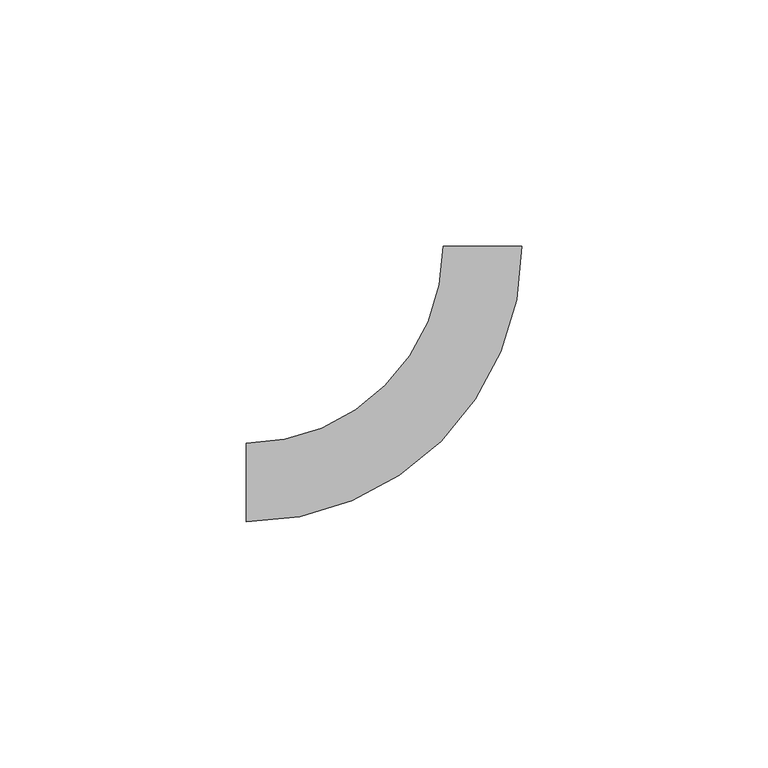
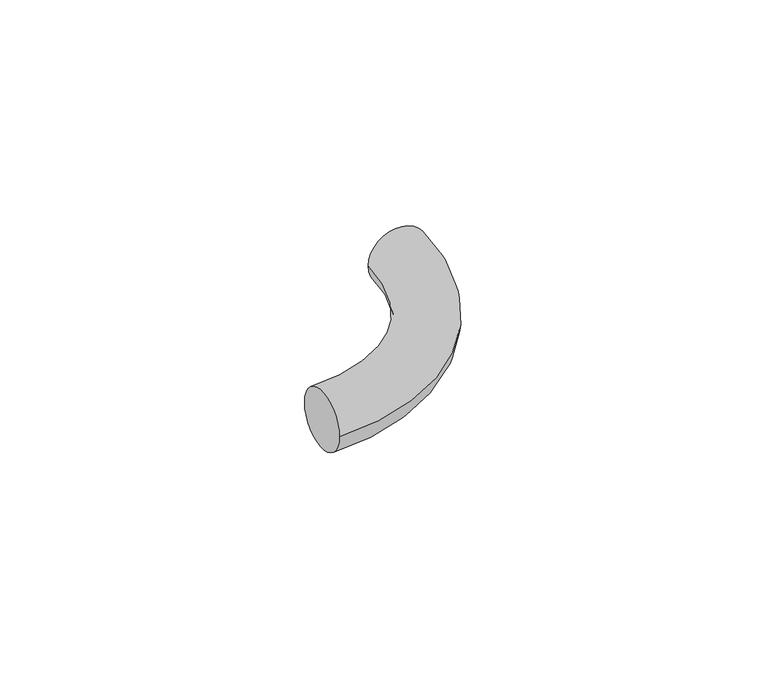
"""IFC4 building model written with IfcOpenShell, lengths in millimetres: pipe fitting geometry, ADSK_Пресс-фитинг ПЭ_Поворот с фиксатором : Поворот трубы."""

from ifc_helpers import new_model, si_unit, point, frame, origin, place, context, project, spatial, circle_curve, ellipse_curve, trimmed, source, transform, mapped, element, save
from ifc_brep_helpers import plane_surface, revolved_surface, advanced_brep


def pipe_fitting_8f811e63(model_context):
    return source(origin(), model_context, "Body", "AdvancedBrep", [
        advanced_brep(
        [(-48.0, -8.0, 0.0), (-48.0, 8.0, 0.0), (8.0, 48.0, 0.0), (-8.0, 48.0, 0.0)],
        [
            (0, 1, circle_curve(frame((-48.0, 0.0, 0.0), z_axis=(-1.0, 0.0, 0.0), x_axis=(0.0, 1.0, 0.0)), 8.0)),
            (1, 0, circle_curve(frame((-48.0, 0.0, 0.0), z_axis=(-1.0, 0.0, 0.0), x_axis=(0.0, 1.0, 0.0)), 8.0)),
            (2, 3, circle_curve(frame((0.0, 48.0, 0.0), z_axis=(0.0, 1.0, 0.0), x_axis=(-1.0, 0.0, 0.0)), 8.0)),
            (3, 2, circle_curve(frame((0.0, 48.0, 0.0), z_axis=(0.0, 1.0, 0.0), x_axis=(-1.0, 0.0, 0.0)), 8.0)),
            (3, 1, circle_curve(frame((-48.0, 48.0, 0.0), z_axis=(0.0, 0.0, -1.0), x_axis=(0.0, -1.0, 0.0)), 40.0)),
            (0, 2, circle_curve(frame((-48.0, 48.0, 0.0), z_axis=(0.0, 0.0, 1.0), x_axis=(0.0, -1.0, 0.0)), 56.0)),
        ],
        [
            plane_surface(frame((-48.0, 0.0, 0.0), z_axis=(-1.0, 0.0, 0.0), x_axis=(0.0, 0.0, 1.0))),
            plane_surface(frame((0.0, 48.0, 0.0), z_axis=(0.0, 1.0, 0.0), x_axis=(0.0, 0.0, 1.0))),
            revolved_surface(trimmed(ellipse_curve(frame((-48.0, 0.0, 0.0), z_axis=(-1.0, 0.0, 0.0), x_axis=(0.0, 1.0, 0.0)), 8.0, 8.0), [point((-48.0, -8.0, 0.0))], [point((-48.0, 8.0, 0.0))], True, "CARTESIAN"), (-48.0, 48.0, 0.0), (0.0, 0.0, 1.0)),
            revolved_surface(trimmed(ellipse_curve(frame((-48.0, 0.0, 0.0), z_axis=(-1.0, 0.0, 0.0), x_axis=(0.0, 1.0, 0.0)), 8.0, 8.0), [point((-48.0, 8.0, 0.0))], [point((-48.0, -8.0, 0.0))], True, "CARTESIAN"), (-48.0, 48.0, 0.0), (0.0, 0.0, 1.0)),
        ],
        [
            (0, [[1, 2]]),
            (1, [[3, 4]]),
            (2, [[5, -1, 6, -4]]),
            (3, [[-6, -2, -5, -3]]),
        ],
    ),
    ])


if __name__ == "__main__":
    model = new_model("IFC4")
    model_context = context("Model", 3, world=origin())
    ifc_project = project(units=[si_unit("LENGTHUNIT", "METRE", prefix="MILLI")], contexts=[model_context])
    site = spatial("IfcSite", under=ifc_project)
    building = spatial("IfcBuilding", under=site)
    placement = place(None, origin())
    pipe_fitting_shape = pipe_fitting_8f811e63(model_context)
    element("IfcPipeFitting", 1, ObjectType="ADSK_Пресс-фитинг ПЭ_Поворот с фиксатором : Поворот трубы", at=placement, inside=building, context=model_context, shape_type="MappedRepresentation", body=[
        mapped(pipe_fitting_shape, transform((0.0, 0.0, 0.0), x_axis=(1.0, 0.0, 0.0), y_axis=(0.0, 1.0, 0.0), z_axis=(0.0, 0.0, 1.0))),
    ])
    save(model, "model.ifc")
